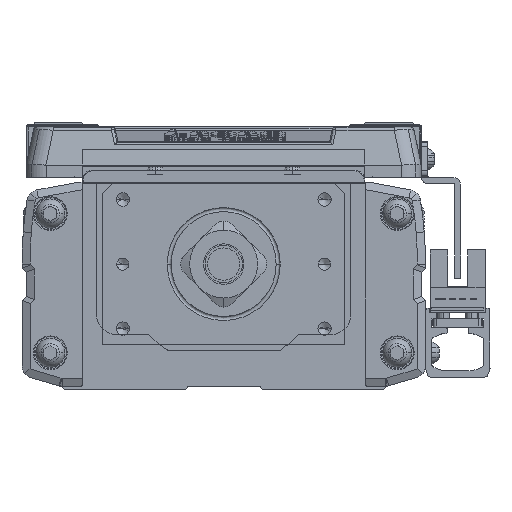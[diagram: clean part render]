
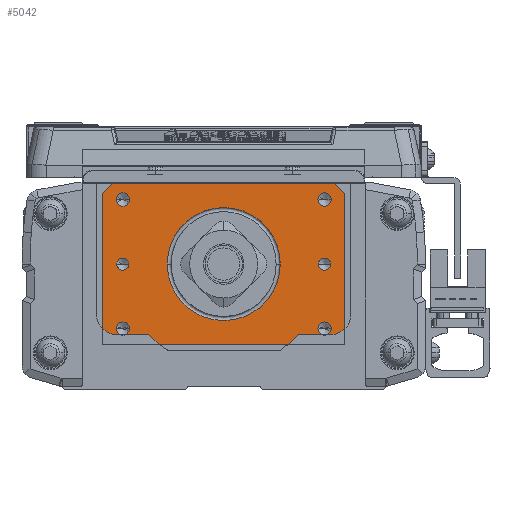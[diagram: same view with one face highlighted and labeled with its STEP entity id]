
A CAD part, left-side view. The second image highlights one B-rep face of the part: STEP entity #5042.
In plain terms, the highlighted planar face has unit normal (-1, 0, 0).
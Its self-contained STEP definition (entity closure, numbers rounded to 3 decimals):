
#5042=ADVANCED_FACE('',(#11296,#11297,#11298,#11299,#11300,#11301,#11302,#11303),#11304,.T.);
#11296=FACE_BOUND('',#19465,.T.);
#11297=FACE_BOUND('',#19466,.T.);
#11298=FACE_BOUND('',#19467,.T.);
#11299=FACE_BOUND('',#19468,.T.);
#11300=FACE_BOUND('',#19469,.T.);
#11301=FACE_BOUND('',#19470,.T.);
#11302=FACE_BOUND('',#19471,.T.);
#11303=FACE_OUTER_BOUND('',#19472,.T.);
#11304=PLANE('',#19473);
#19465=EDGE_LOOP('',(#33349,#33350));
#19466=EDGE_LOOP('',(#33351,#33352));
#19467=EDGE_LOOP('',(#33353,#33354));
#19468=EDGE_LOOP('',(#33355,#33356));
#19469=EDGE_LOOP('',(#33357,#33358));
#19470=EDGE_LOOP('',(#33359,#33360));
#19471=EDGE_LOOP('',(#33361,#33362,#33363));
#19472=EDGE_LOOP('',(#33364,#33365,#33366,#33367,#33368,#33369));
#19473=AXIS2_PLACEMENT_3D('',#33370,#33371,#33372);
#33349=ORIENTED_EDGE('',*,*,#51262,.T.);
#33350=ORIENTED_EDGE('',*,*,#51263,.T.);
#33351=ORIENTED_EDGE('',*,*,#50178,.T.);
#33352=ORIENTED_EDGE('',*,*,#51159,.T.);
#33353=ORIENTED_EDGE('',*,*,#46926,.T.);
#33354=ORIENTED_EDGE('',*,*,#51264,.T.);
#33355=ORIENTED_EDGE('',*,*,#51265,.T.);
#33356=ORIENTED_EDGE('',*,*,#51266,.T.);
#33357=ORIENTED_EDGE('',*,*,#50089,.T.);
#33358=ORIENTED_EDGE('',*,*,#51267,.T.);
#33359=ORIENTED_EDGE('',*,*,#51268,.T.);
#33360=ORIENTED_EDGE('',*,*,#51269,.T.);
#33361=ORIENTED_EDGE('',*,*,#50684,.T.);
#33362=ORIENTED_EDGE('',*,*,#49753,.T.);
#33363=ORIENTED_EDGE('',*,*,#50685,.T.);
#33364=ORIENTED_EDGE('',*,*,#51270,.F.);
#33365=ORIENTED_EDGE('',*,*,#50265,.F.);
#33366=ORIENTED_EDGE('',*,*,#49993,.T.);
#33367=ORIENTED_EDGE('',*,*,#50783,.T.);
#33368=ORIENTED_EDGE('',*,*,#49179,.F.);
#33369=ORIENTED_EDGE('',*,*,#51271,.T.);
#33370=CARTESIAN_POINT('',(-580.,0.,-20.));
#33371=DIRECTION('',(-1.0,0.,0.));
#33372=DIRECTION('',(0.,-1.0,0.));
#46926=EDGE_CURVE('',#56277,#56282,#56284,.T.);
#49179=EDGE_CURVE('',#60080,#60081,#60082,.T.);
#49753=EDGE_CURVE('',#61004,#61008,#61010,.T.);
#49993=EDGE_CURVE('',#61372,#61369,#61373,.T.);
#50089=EDGE_CURVE('',#61512,#61514,#61516,.T.);
#50178=EDGE_CURVE('',#61636,#61638,#61640,.T.);
#50265=EDGE_CURVE('',#61372,#61775,#61778,.T.);
#50684=EDGE_CURVE('',#62409,#61004,#62410,.T.);
#50685=EDGE_CURVE('',#61008,#62409,#62411,.T.);
#50783=EDGE_CURVE('',#61369,#60081,#62550,.T.);
#51159=EDGE_CURVE('',#61638,#61636,#63100,.T.);
#51262=EDGE_CURVE('',#63246,#63247,#63248,.T.);
#51263=EDGE_CURVE('',#63247,#63246,#63249,.T.);
#51264=EDGE_CURVE('',#56282,#56277,#63250,.T.);
#51265=EDGE_CURVE('',#63251,#63252,#63253,.T.);
#51266=EDGE_CURVE('',#63252,#63251,#63254,.T.);
#51267=EDGE_CURVE('',#61514,#61512,#63255,.T.);
#51268=EDGE_CURVE('',#63256,#63257,#63258,.T.);
#51269=EDGE_CURVE('',#63257,#63256,#63259,.T.);
#51270=EDGE_CURVE('',#61775,#63260,#63261,.T.);
#51271=EDGE_CURVE('',#60080,#63260,#63262,.T.);
#56277=VERTEX_POINT('',#69536);
#56282=VERTEX_POINT('',#69542);
#56284=CIRCLE('',#69545,1.65);
#60080=VERTEX_POINT('',#74869);
#60081=VERTEX_POINT('',#74870);
#60082=LINE('',#74871,#74872);
#61004=VERTEX_POINT('',#76141);
#61008=VERTEX_POINT('',#76145);
#61010=CIRCLE('',#76147,14.0);
#61369=VERTEX_POINT('',#76637);
#61372=VERTEX_POINT('',#76641);
#61373=LINE('',#76642,#76643);
#61512=VERTEX_POINT('',#76833);
#61514=VERTEX_POINT('',#76836);
#61516=CIRCLE('',#76839,1.65);
#61636=VERTEX_POINT('',#77000);
#61638=VERTEX_POINT('',#77003);
#61640=CIRCLE('',#77006,1.5);
#61775=VERTEX_POINT('',#77191);
#61778=LINE('',#77196,#77197);
#62409=VERTEX_POINT('',#78095);
#62410=CIRCLE('',#78096,14.0);
#62411=CIRCLE('',#78097,14.0);
#62550=LINE('',#78289,#78290);
#63100=CIRCLE('',#79111,1.5);
#63246=VERTEX_POINT('',#79326);
#63247=VERTEX_POINT('',#79327);
#63248=CIRCLE('',#79328,1.5);
#63249=CIRCLE('',#79329,1.5);
#63250=CIRCLE('',#79330,1.65);
#63251=VERTEX_POINT('',#79331);
#63252=VERTEX_POINT('',#79332);
#63253=CIRCLE('',#79333,1.65);
#63254=CIRCLE('',#79334,1.65);
#63255=CIRCLE('',#79335,1.65);
#63256=VERTEX_POINT('',#79336);
#63257=VERTEX_POINT('',#79337);
#63258=CIRCLE('',#79338,1.65);
#63259=CIRCLE('',#79339,1.65);
#63260=VERTEX_POINT('',#79340);
#63261=LINE('',#79341,#79342);
#63262=LINE('',#79343,#79344);
#69536=CARTESIAN_POINT('',(-580.,-26.65,-16.));
#69542=CARTESIAN_POINT('',(-580.,-23.35,-16.));
#69545=AXIS2_PLACEMENT_3D('',#86639,#86640,#86641);
#74869=CARTESIAN_POINT('',(-580.,-27.5,20.));
#74870=CARTESIAN_POINT('',(-580.,-30.,17.5));
#74871=CARTESIAN_POINT('',(-580.,-31.25,16.25));
#74872=VECTOR('',#89690,10.);
#76141=CARTESIAN_POINT('',(-580.,14.,0.));
#76145=CARTESIAN_POINT('',(-580.,-14.,0.));
#76147=AXIS2_PLACEMENT_3D('',#90538,#90539,#90540);
#76637=CARTESIAN_POINT('',(-580.,-30.,-20.));
#76641=CARTESIAN_POINT('',(-580.,30.,-20.));
#76642=CARTESIAN_POINT('',(-580.,30.,-20.));
#76643=VECTOR('',#90856,10.0);
#76833=CARTESIAN_POINT('',(-580.,26.65,16.));
#76836=CARTESIAN_POINT('',(-580.,23.35,16.));
#76839=AXIS2_PLACEMENT_3D('',#90970,#90971,#90972);
#77000=CARTESIAN_POINT('',(-580.,26.5,0.));
#77003=CARTESIAN_POINT('',(-580.,23.5,0.));
#77006=AXIS2_PLACEMENT_3D('',#91071,#91072,#91073);
#77191=CARTESIAN_POINT('',(-580.,30.,17.5));
#77196=CARTESIAN_POINT('',(-580.,30.,-20.));
#77197=VECTOR('',#91171,10.0);
#78095=CARTESIAN_POINT('',(-580.,0.,-14.));
#78096=AXIS2_PLACEMENT_3D('',#91703,#91704,#91705);
#78097=AXIS2_PLACEMENT_3D('',#91706,#91707,#91708);
#78289=CARTESIAN_POINT('',(-580.,-30.,-20.));
#78290=VECTOR('',#91838,10.0);
#79111=AXIS2_PLACEMENT_3D('',#92271,#92272,#92273);
#79326=CARTESIAN_POINT('',(-580.,-26.5,0.));
#79327=CARTESIAN_POINT('',(-580.,-23.5,0.));
#79328=AXIS2_PLACEMENT_3D('',#92403,#92404,#92405);
#79329=AXIS2_PLACEMENT_3D('',#92406,#92407,#92408);
#79330=AXIS2_PLACEMENT_3D('',#92409,#92410,#92411);
#79331=CARTESIAN_POINT('',(-580.,26.65,-16.));
#79332=CARTESIAN_POINT('',(-580.,23.35,-16.));
#79333=AXIS2_PLACEMENT_3D('',#92412,#92413,#92414);
#79334=AXIS2_PLACEMENT_3D('',#92415,#92416,#92417);
#79335=AXIS2_PLACEMENT_3D('',#92418,#92419,#92420);
#79336=CARTESIAN_POINT('',(-580.,-26.65,16.));
#79337=CARTESIAN_POINT('',(-580.,-23.35,16.));
#79338=AXIS2_PLACEMENT_3D('',#92421,#92422,#92423);
#79339=AXIS2_PLACEMENT_3D('',#92424,#92425,#92426);
#79340=CARTESIAN_POINT('',(-580.,27.5,20.));
#79341=CARTESIAN_POINT('',(-580.,31.25,16.25));
#79342=VECTOR('',#92427,10.);
#79343=CARTESIAN_POINT('',(-580.,30.,20.));
#79344=VECTOR('',#92428,10.0);
#86639=CARTESIAN_POINT('',(-580.,-25.,-16.));
#86640=DIRECTION('',(1.0,0.,0.));
#86641=DIRECTION('',(0.,-1.0,0.));
#89690=DIRECTION('',(0.0,-0.707,-0.707));
#90538=CARTESIAN_POINT('',(-580.,0.,0.));
#90539=DIRECTION('',(1.0,0.,0.));
#90540=DIRECTION('',(0.,0.,1.0));
#90856=DIRECTION('',(0.,-1.0,0.));
#90970=CARTESIAN_POINT('',(-580.,25.,16.));
#90971=DIRECTION('',(1.0,0.,0.));
#90972=DIRECTION('',(0.,1.0,0.));
#91071=CARTESIAN_POINT('',(-580.,25.,0.));
#91072=DIRECTION('',(1.0,0.,0.));
#91073=DIRECTION('',(0.,1.0,0.));
#91171=DIRECTION('',(0.,0.,1.0));
#91703=CARTESIAN_POINT('',(-580.,0.,0.));
#91704=DIRECTION('',(1.0,0.,0.));
#91705=DIRECTION('',(0.,0.,1.0));
#91706=CARTESIAN_POINT('',(-580.,0.,0.));
#91707=DIRECTION('',(1.0,0.,0.));
#91708=DIRECTION('',(0.,0.,1.0));
#91838=DIRECTION('',(0.,0.,1.0));
#92271=CARTESIAN_POINT('',(-580.,25.,0.));
#92272=DIRECTION('',(1.0,0.,0.));
#92273=DIRECTION('',(0.,1.0,0.));
#92403=CARTESIAN_POINT('',(-580.,-25.,0.));
#92404=DIRECTION('',(1.0,0.,0.));
#92405=DIRECTION('',(0.,-1.0,0.));
#92406=CARTESIAN_POINT('',(-580.,-25.,0.));
#92407=DIRECTION('',(1.0,0.,0.));
#92408=DIRECTION('',(0.,-1.0,0.));
#92409=CARTESIAN_POINT('',(-580.,-25.,-16.));
#92410=DIRECTION('',(1.0,0.,0.));
#92411=DIRECTION('',(0.,-1.0,0.));
#92412=CARTESIAN_POINT('',(-580.,25.,-16.));
#92413=DIRECTION('',(1.0,0.,0.));
#92414=DIRECTION('',(0.,1.0,0.));
#92415=CARTESIAN_POINT('',(-580.,25.,-16.));
#92416=DIRECTION('',(1.0,0.,0.));
#92417=DIRECTION('',(0.,1.0,0.));
#92418=CARTESIAN_POINT('',(-580.,25.,16.));
#92419=DIRECTION('',(1.0,0.,0.));
#92420=DIRECTION('',(0.,1.0,0.));
#92421=CARTESIAN_POINT('',(-580.,-25.,16.));
#92422=DIRECTION('',(1.0,0.,0.));
#92423=DIRECTION('',(0.,-1.0,0.));
#92424=CARTESIAN_POINT('',(-580.,-25.,16.));
#92425=DIRECTION('',(1.0,0.,0.));
#92426=DIRECTION('',(0.,-1.0,0.));
#92427=DIRECTION('',(0.,-0.707,0.707));
#92428=DIRECTION('',(0.,1.0,0.));
